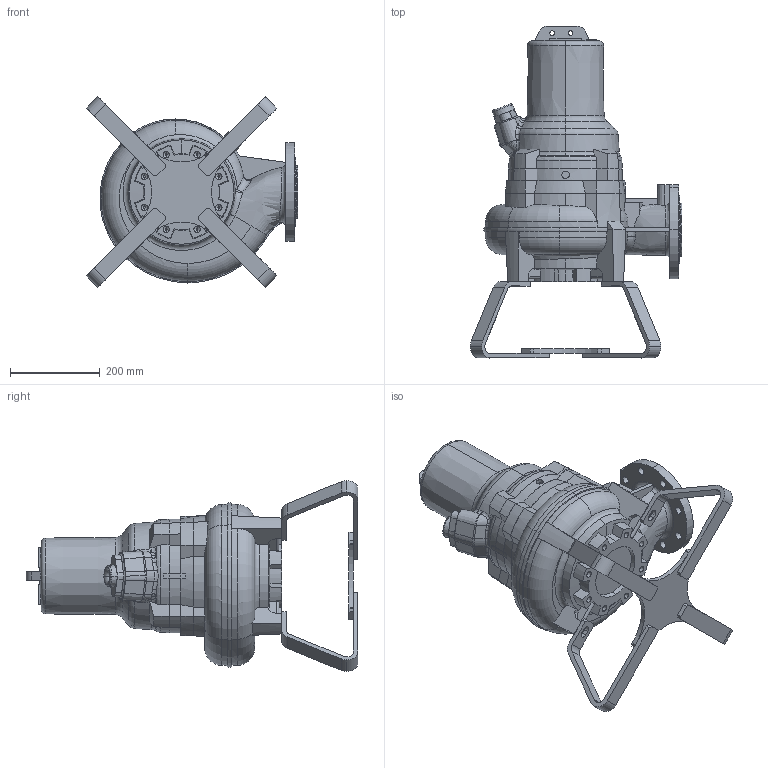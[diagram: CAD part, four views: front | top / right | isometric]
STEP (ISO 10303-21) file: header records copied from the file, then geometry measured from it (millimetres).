
FILE_DESCRIPTION (( 'STEP AP203' ), '1' );
FILE_NAME ('100FWC-M_2,2-3,1kW BASE FRAME.STEP', '2025-03-21T10:25:09', ( '' ), ( '' ), 'SwSTEP 2.0', 'SolidWorks 2023', '' );
FILE_SCHEMA (( 'CONFIG_CONTROL_DESIGN' ));
Length unit declared in the file: millimetre
Products named in the file (1): 100FWC-M_2,2-3,1kW BASE FRAME
Bounding box: 471.65 x 740 x 425.3 mm (x, y, z)
Volume: 29412300.5 mm3; surface area: 982794.2 mm2
Topology: 1 solids, 2 shells, 753 faces, 2024 edges, 1302 vertices
Faces by surface type: plane 337, cone 159, cylinder 113, bspline 77, torus 58, sphere 9
Entity records: 31277 total; most frequent: CARTESIAN_POINT 13000, ORIENTED_EDGE 4024, DIRECTION 3570, EDGE_CURVE 2012, AXIS2_PLACEMENT_3D 1377, VERTEX_POINT 1302, EDGE_LOOP 820, LINE 816
